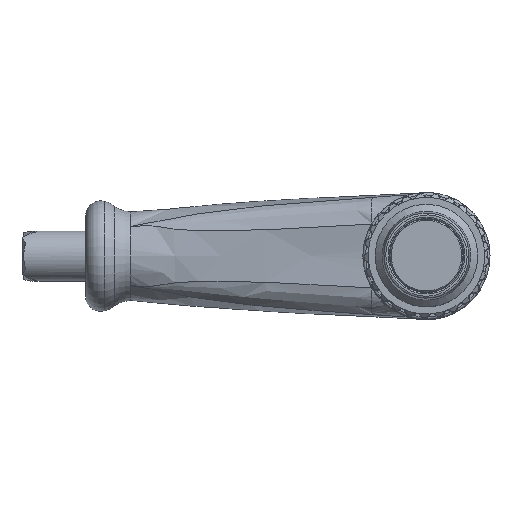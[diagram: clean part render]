
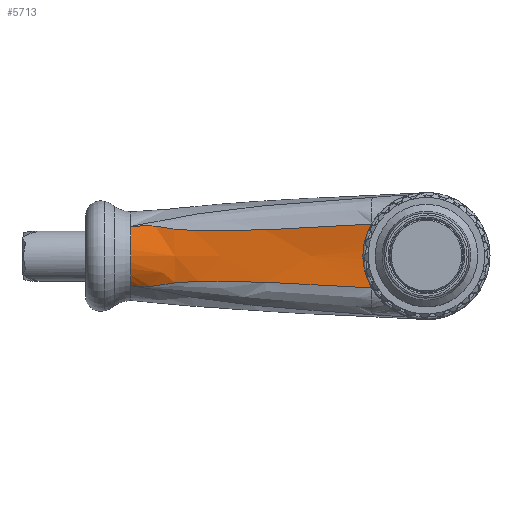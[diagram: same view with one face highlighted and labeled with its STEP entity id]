
A CAD part, top view. The second image highlights one B-rep face of the part: STEP entity #5713.
In plain terms, the highlighted free-form (B-spline) face has degree [3, 3] with [6, 6] control points.
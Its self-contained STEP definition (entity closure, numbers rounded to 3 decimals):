
#1994=CARTESIAN_POINT('',(-9.231,2.485,4.476));
#1995=VERTEX_POINT('',#1994);
#2011=CARTESIAN_POINT('',(-9.231,-2.485,4.476));
#2012=VERTEX_POINT('',#2011);
#2013=CARTESIAN_POINT('',(-9.231,-2.485,4.476));
#2014=CARTESIAN_POINT('',(-9.476,-2.063,4.423));
#2015=CARTESIAN_POINT('',(-9.648,-1.624,4.369));
#2016=CARTESIAN_POINT('',(-9.884,-0.667,4.281));
#2017=CARTESIAN_POINT('',(-9.946,-0.065,4.247));
#2018=CARTESIAN_POINT('',(-9.791,1.184,4.318));
#2019=CARTESIAN_POINT('',(-9.616,1.767,4.387));
#2020=CARTESIAN_POINT('',(-9.293,2.376,4.462));
#2021=CARTESIAN_POINT('',(-9.263,2.431,4.469));
#2022=CARTESIAN_POINT('',(-9.231,2.485,4.476));
#2023=B_SPLINE_CURVE_WITH_KNOTS('',3,(#2013,#2014,#2015,#2016,#2017,#2018,#2019,#2020,#2021,#2022),.UNSPECIFIED.,.F.,.U.,(4,2,2,2,4),(-0.928,-0.741,-0.518,-0.329,-0.31),.UNSPECIFIED.);
#2024=EDGE_CURVE('',#2012,#1995,#2023,.T.);
#5263=CARTESIAN_POINT('',(-28.,-2.309,2.564));
#5264=VERTEX_POINT('',#5263);
#5485=CARTESIAN_POINT('',(-28.,2.309,2.564));
#5486=VERTEX_POINT('',#5485);
#5513=CARTESIAN_POINT('',(-28.,2.309,2.564));
#5514=CARTESIAN_POINT('',(-27.971,2.311,2.566));
#5515=CARTESIAN_POINT('',(-27.942,2.313,2.568));
#5516=CARTESIAN_POINT('',(-27.345,2.362,2.615));
#5517=CARTESIAN_POINT('',(-26.494,2.417,2.716));
#5518=CARTESIAN_POINT('',(-25.307,2.199,3.002));
#5519=CARTESIAN_POINT('',(-24.42,2.069,3.133));
#5520=CARTESIAN_POINT('',(-23.547,2.001,3.22));
#5521=CARTESIAN_POINT('',(-22.393,1.953,3.309));
#5522=CARTESIAN_POINT('',(-21.535,1.95,3.363));
#5523=CARTESIAN_POINT('',(-20.939,1.955,3.401));
#5524=CARTESIAN_POINT('',(-20.915,1.955,3.402));
#5525=CARTESIAN_POINT('',(-20.309,1.96,3.441));
#5526=CARTESIAN_POINT('',(-19.152,1.983,3.515));
#5527=CARTESIAN_POINT('',(-17.421,2.04,3.638));
#5528=CARTESIAN_POINT('',(-15.694,2.112,3.777));
#5529=CARTESIAN_POINT('',(-14.544,2.169,3.882));
#5530=CARTESIAN_POINT('',(-13.957,2.199,3.939));
#5531=CARTESIAN_POINT('',(-13.943,2.2,3.94));
#5532=CARTESIAN_POINT('',(-13.144,2.242,4.018));
#5533=CARTESIAN_POINT('',(-11.576,2.33,4.183));
#5534=CARTESIAN_POINT('',(-10.012,2.431,4.374));
#5535=CARTESIAN_POINT('',(-9.231,2.485,4.476));
#5536=B_SPLINE_CURVE_WITH_KNOTS('',3,(#5513,#5514,#5515,#5516,#5517,#5518,#5519,#5520,#5521,#5522,#5523,#5524,#5525,#5526,#5527,#5528,#5529,#5530,#5531,#5532,#5533,#5534,#5535),.UNSPECIFIED.,.F.,.U.,(4,2,1,1,1,1,1,2,2,1,1,1,2,2,1,4),(-2.171,-2.162,-1.99,-1.903,-1.817,-1.731,-1.645,-1.472,-1.465,-1.289,-1.114,-0.938,-0.763,-0.758,-0.518,-0.278),.UNSPECIFIED.);
#5537=EDGE_CURVE('',#5486,#1995,#5536,.T.);
#5629=CARTESIAN_POINT('',(-9.168,-4.281,4.474));
#5630=CARTESIAN_POINT('',(-9.157,-2.965,4.603));
#5631=CARTESIAN_POINT('',(-9.136,-1.451,4.368));
#5632=CARTESIAN_POINT('',(-9.136,1.451,4.368));
#5633=CARTESIAN_POINT('',(-9.157,2.965,4.603));
#5634=CARTESIAN_POINT('',(-9.168,4.281,4.474));
#5635=CARTESIAN_POINT('',(-10.758,-4.114,4.244));
#5636=CARTESIAN_POINT('',(-10.746,-2.878,4.414));
#5637=CARTESIAN_POINT('',(-10.726,-1.4,4.153));
#5638=CARTESIAN_POINT('',(-10.726,1.4,4.153));
#5639=CARTESIAN_POINT('',(-10.746,2.878,4.414));
#5640=CARTESIAN_POINT('',(-10.758,4.114,4.244));
#5641=CARTESIAN_POINT('',(-14.685,-3.7,3.718));
#5642=CARTESIAN_POINT('',(-14.674,-2.664,4.002));
#5643=CARTESIAN_POINT('',(-14.658,-1.273,3.708));
#5644=CARTESIAN_POINT('',(-14.658,1.273,3.708));
#5645=CARTESIAN_POINT('',(-14.674,2.664,4.002));
#5646=CARTESIAN_POINT('',(-14.685,3.7,3.718));
#5647=CARTESIAN_POINT('',(-20.961,-3.043,3.05));
#5648=CARTESIAN_POINT('',(-20.956,-2.282,3.522));
#5649=CARTESIAN_POINT('',(-20.954,-1.07,3.338));
#5650=CARTESIAN_POINT('',(-20.954,1.07,3.338));
#5651=CARTESIAN_POINT('',(-20.956,2.282,3.522));
#5652=CARTESIAN_POINT('',(-20.961,3.043,3.05));
#5653=CARTESIAN_POINT('',(-25.654,-2.553,2.701));
#5654=CARTESIAN_POINT('',(-25.653,-1.906,3.254));
#5655=CARTESIAN_POINT('',(-25.655,-0.919,3.363));
#5656=CARTESIAN_POINT('',(-25.655,0.919,3.363));
#5657=CARTESIAN_POINT('',(-25.653,1.906,3.254));
#5658=CARTESIAN_POINT('',(-25.654,2.553,2.701));
#5659=CARTESIAN_POINT('',(-28.,-2.309,2.564));
#5660=CARTESIAN_POINT('',(-28.,-1.682,3.128));
#5661=CARTESIAN_POINT('',(-28.,-0.844,3.45));
#5662=CARTESIAN_POINT('',(-28.,0.844,3.45));
#5663=CARTESIAN_POINT('',(-28.,1.682,3.128));
#5664=CARTESIAN_POINT('',(-28.,2.309,2.564));
#5665=B_SPLINE_SURFACE_WITH_KNOTS('',3,3,((#5629,#5635,#5641,#5647,#5653,#5659),(#5630,#5636,#5642,#5648,#5654,#5660),(#5631,#5637,#5643,#5649,#5655,#5661),(#5632,#5638,#5644,#5650,#5656,#5662),(#5633,#5639,#5645,#5651,#5657,#5663),(#5634,#5640,#5646,#5652,#5658,#5664)),.UNSPECIFIED.,.F.,.F.,.F.,(4,2,4),(4,1,1,4),(0.0,0.5,1.0),(0.329,0.5,0.75,1.0),.UNSPECIFIED.);
#5666=ORIENTED_EDGE('',*,*,#5537,.F.);
#5667=CARTESIAN_POINT('',(-28.,0.0,3.45));
#5668=VERTEX_POINT('',#5667);
#5669=CARTESIAN_POINT('',(-28.,0.0,0.0));
#5670=DIRECTION('',(-1.0,0.0,0.0));
#5671=DIRECTION('',(0.0,0.0,1.0));
#5672=AXIS2_PLACEMENT_3D('',#5669,#5670,#5671);
#5673=CIRCLE('',#5672,3.45);
#5674=EDGE_CURVE('',#5668,#5486,#5673,.T.);
#5675=ORIENTED_EDGE('',*,*,#5674,.F.);
#5676=CARTESIAN_POINT('',(-28.,0.0,0.0));
#5677=DIRECTION('',(-1.0,0.0,0.0));
#5678=DIRECTION('',(0.0,0.0,1.0));
#5679=AXIS2_PLACEMENT_3D('',#5676,#5677,#5678);
#5680=CIRCLE('',#5679,3.45);
#5681=EDGE_CURVE('',#5264,#5668,#5680,.T.);
#5682=ORIENTED_EDGE('',*,*,#5681,.F.);
#5683=CARTESIAN_POINT('',(-9.231,-2.485,4.476));
#5684=CARTESIAN_POINT('',(-10.012,-2.431,4.374));
#5685=CARTESIAN_POINT('',(-11.185,-2.356,4.231));
#5686=CARTESIAN_POINT('',(-12.752,-2.264,4.059));
#5687=CARTESIAN_POINT('',(-13.537,-2.221,3.98));
#5688=CARTESIAN_POINT('',(-13.943,-2.2,3.94));
#5689=CARTESIAN_POINT('',(-13.957,-2.199,3.939));
#5690=CARTESIAN_POINT('',(-14.544,-2.169,3.882));
#5691=CARTESIAN_POINT('',(-15.693,-2.112,3.777));
#5692=CARTESIAN_POINT('',(-17.42,-2.04,3.638));
#5693=CARTESIAN_POINT('',(-19.152,-1.983,3.515));
#5694=CARTESIAN_POINT('',(-20.309,-1.96,3.441));
#5695=CARTESIAN_POINT('',(-20.915,-1.955,3.402));
#5696=CARTESIAN_POINT('',(-20.939,-1.955,3.401));
#5697=CARTESIAN_POINT('',(-21.535,-1.95,3.363));
#5698=CARTESIAN_POINT('',(-22.392,-1.953,3.309));
#5699=CARTESIAN_POINT('',(-23.545,-2.001,3.22));
#5700=CARTESIAN_POINT('',(-24.417,-2.068,3.133));
#5701=CARTESIAN_POINT('',(-25.304,-2.198,3.002));
#5702=CARTESIAN_POINT('',(-26.49,-2.416,2.717));
#5703=CARTESIAN_POINT('',(-27.34,-2.362,2.616));
#5704=CARTESIAN_POINT('',(-27.939,-2.314,2.569));
#5705=CARTESIAN_POINT('',(-27.969,-2.311,2.566));
#5706=CARTESIAN_POINT('',(-28.,-2.309,2.564));
#5707=B_SPLINE_CURVE_WITH_KNOTS('',3,(#5683,#5684,#5685,#5686,#5687,#5688,#5689,#5690,#5691,#5692,#5693,#5694,#5695,#5696,#5697,#5698,#5699,#5700,#5701,#5702,#5703,#5704,#5705,#5706),.UNSPECIFIED.,.F.,.U.,(4,1,1,2,2,1,1,1,2,2,1,1,1,1,1,2,4),(0.246,0.486,0.606,0.726,0.73,0.906,1.081,1.257,1.433,1.44,1.612,1.699,1.785,1.871,1.957,2.13,2.139),.UNSPECIFIED.);
#5708=EDGE_CURVE('',#2012,#5264,#5707,.T.);
#5709=ORIENTED_EDGE('',*,*,#5708,.F.);
#5710=ORIENTED_EDGE('',*,*,#2024,.T.);
#5711=EDGE_LOOP('',(#5666,#5675,#5682,#5709,#5710));
#5712=FACE_OUTER_BOUND('',#5711,.T.);
#5713=ADVANCED_FACE('',(#5712),#5665,.T.);
